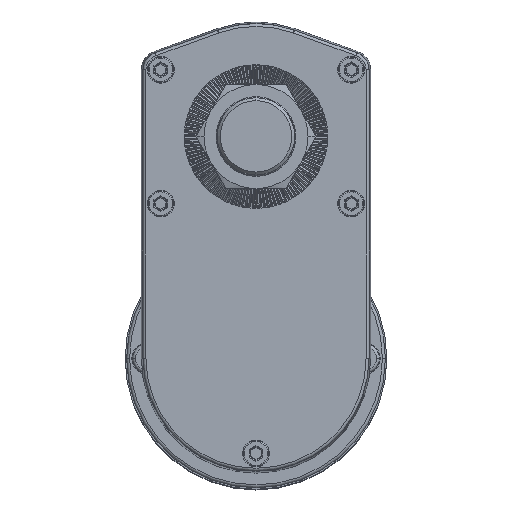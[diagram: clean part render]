
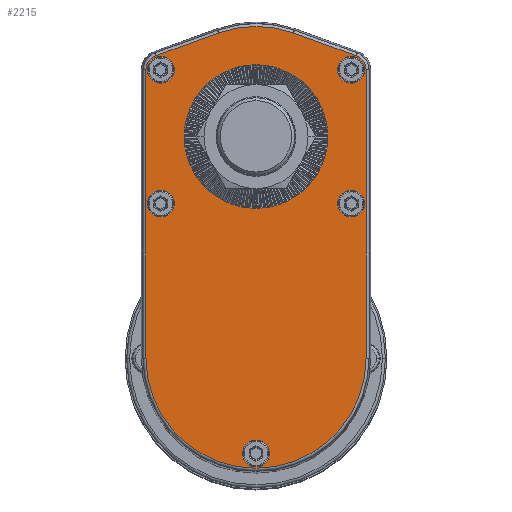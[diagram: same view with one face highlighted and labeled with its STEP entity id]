
A CAD part, top view. The second image highlights one B-rep face of the part: STEP entity #2215.
In plain terms, the highlighted planar face has unit normal (0, 0, 1).
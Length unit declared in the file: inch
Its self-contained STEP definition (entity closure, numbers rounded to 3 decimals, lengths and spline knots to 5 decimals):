
#2215=ADVANCED_FACE('NONE',(#4953,#4954,#4955,#4956,#4957,#4958,#4959),#4960,.F.);
#4953=FACE_OUTER_BOUND('',#9820,.T.);
#4954=FACE_BOUND('',#9821,.T.);
#4955=FACE_BOUND('',#9822,.T.);
#4956=FACE_BOUND('',#9823,.T.);
#4957=FACE_BOUND('',#9824,.T.);
#4958=FACE_BOUND('',#9825,.T.);
#4959=FACE_BOUND('',#9826,.T.);
#4960=PLANE('',#9827);
#9820=EDGE_LOOP('',(#18326,#18327,#18328,#18329,#18330,#18331,#18332,#18333));
#9821=EDGE_LOOP('',(#18334,#18335));
#9822=EDGE_LOOP('',(#18336,#18337));
#9823=EDGE_LOOP('',(#18338,#18339));
#9824=EDGE_LOOP('',(#18340,#18341));
#9825=EDGE_LOOP('',(#18342,#18343));
#9826=EDGE_LOOP('',(#18344,#18345));
#9827=AXIS2_PLACEMENT_3D('',#18346,#18347,#18348);
#18326=ORIENTED_EDGE('',*,*,#24241,.T.);
#18327=ORIENTED_EDGE('',*,*,#25404,.T.);
#18328=ORIENTED_EDGE('',*,*,#25405,.T.);
#18329=ORIENTED_EDGE('',*,*,#25406,.T.);
#18330=ORIENTED_EDGE('',*,*,#25407,.T.);
#18331=ORIENTED_EDGE('',*,*,#22927,.T.);
#18332=ORIENTED_EDGE('',*,*,#25408,.T.);
#18333=ORIENTED_EDGE('',*,*,#23500,.T.);
#18334=ORIENTED_EDGE('',*,*,#24743,.F.);
#18335=ORIENTED_EDGE('',*,*,#25409,.F.);
#18336=ORIENTED_EDGE('',*,*,#25177,.F.);
#18337=ORIENTED_EDGE('',*,*,#25410,.F.);
#18338=ORIENTED_EDGE('',*,*,#24555,.F.);
#18339=ORIENTED_EDGE('',*,*,#25411,.F.);
#18340=ORIENTED_EDGE('',*,*,#25412,.F.);
#18341=ORIENTED_EDGE('',*,*,#24443,.F.);
#18342=ORIENTED_EDGE('',*,*,#25413,.F.);
#18343=ORIENTED_EDGE('',*,*,#25414,.F.);
#18344=ORIENTED_EDGE('',*,*,#25415,.F.);
#18345=ORIENTED_EDGE('',*,*,#25416,.F.);
#18346=CARTESIAN_POINT('',(-0.25544,1.49611,28.17717));
#18347=DIRECTION('',(0.0,0.0,-1.0));
#18348=DIRECTION('',(0.0,-1.0,0.0));
#22927=EDGE_CURVE('NONE',#26923,#26927,#26929,.T.);
#23500=EDGE_CURVE('NONE',#27930,#27935,#27937,.T.);
#24241=EDGE_CURVE('NONE',#27935,#29130,#29132,.T.);
#24443=EDGE_CURVE('NONE',#29427,#29425,#29429,.T.);
#24555=EDGE_CURVE('NONE',#29588,#29583,#29590,.T.);
#24743=EDGE_CURVE('NONE',#29865,#29867,#29868,.T.);
#25177=EDGE_CURVE('NONE',#30468,#30466,#30470,.T.);
#25404=EDGE_CURVE('NONE',#29130,#30758,#30759,.T.);
#25405=EDGE_CURVE('NONE',#30758,#30760,#30761,.T.);
#25406=EDGE_CURVE('NONE',#30760,#30762,#30763,.T.);
#25407=EDGE_CURVE('NONE',#30762,#26923,#30764,.T.);
#25408=EDGE_CURVE('NONE',#26927,#27930,#30765,.T.);
#25409=EDGE_CURVE('NONE',#29867,#29865,#30766,.T.);
#25410=EDGE_CURVE('NONE',#30466,#30468,#30767,.T.);
#25411=EDGE_CURVE('NONE',#29583,#29588,#30768,.T.);
#25412=EDGE_CURVE('NONE',#29425,#29427,#30769,.T.);
#25413=EDGE_CURVE('NONE',#30770,#30771,#30772,.T.);
#25414=EDGE_CURVE('NONE',#30771,#30770,#30773,.T.);
#25415=EDGE_CURVE('NONE',#30774,#30775,#30776,.T.);
#25416=EDGE_CURVE('NONE',#30775,#30774,#30777,.T.);
#26923=VERTEX_POINT('NONE',#33014);
#26927=VERTEX_POINT('NONE',#33018);
#26929=CIRCLE('',#33020,1.45738);
#27930=VERTEX_POINT('NONE',#36040);
#27935=VERTEX_POINT('NONE',#36045);
#27937=CIRCLE('',#36047,0.19754);
#29130=VERTEX_POINT('NONE',#39439);
#29132=LINE('',#39441,#39442);
#29425=VERTEX_POINT('NONE',#40157);
#29427=VERTEX_POINT('',#40160);
#29429=CIRCLE('',#40163,0.17717);
#29583=VERTEX_POINT('',#40523);
#29588=VERTEX_POINT('NONE',#40529);
#29590=CIRCLE('',#40532,0.17717);
#29865=VERTEX_POINT('NONE',#41192);
#29867=VERTEX_POINT('',#41195);
#29868=CIRCLE('',#41196,0.94882);
#30466=VERTEX_POINT('',#43049);
#30468=VERTEX_POINT('NONE',#43052);
#30470=CIRCLE('',#43055,0.17717);
#30758=VERTEX_POINT('NONE',#43717);
#30759=CIRCLE('',#43718,1.45718);
#30760=VERTEX_POINT('NONE',#43719);
#30761=LINE('',#43720,#43721);
#30762=VERTEX_POINT('NONE',#43722);
#30763=CIRCLE('',#43723,0.19754);
#30764=LINE('',#43724,#43725);
#30765=LINE('',#43726,#43727);
#30766=CIRCLE('',#43728,0.94882);
#30767=CIRCLE('',#43729,0.17717);
#30768=CIRCLE('',#43730,0.17717);
#30769=CIRCLE('',#43731,0.17717);
#30770=VERTEX_POINT('NONE',#43732);
#30771=VERTEX_POINT('',#43733);
#30772=CIRCLE('',#43734,0.17717);
#30773=CIRCLE('',#43735,0.17717);
#30774=VERTEX_POINT('NONE',#43736);
#30775=VERTEX_POINT('',#43737);
#30776=CIRCLE('',#43738,0.17717);
#30777=CIRCLE('',#43739,0.17717);
#33014=CARTESIAN_POINT('',(0.24005,2.86668,28.17717));
#33018=CARTESIAN_POINT('',(-0.75093,2.86668,28.17717));
#33020=AXIS2_PLACEMENT_3D('',#46752,#46753,#46754);
#36040=CARTESIAN_POINT('',(-1.58224,2.56614,28.17717));
#36045=CARTESIAN_POINT('',(-1.71262,2.38037,28.17717));
#36047=AXIS2_PLACEMENT_3D('',#47224,#47225,#47226);
#39439=CARTESIAN_POINT('',(-1.71262,-1.43676,28.17717));
#39441=CARTESIAN_POINT('',(-1.71262,-1.43676,28.17717));
#39442=VECTOR('',#47916,39.37008);
#40157=CARTESIAN_POINT('',(-0.07827,-2.69837,28.17717));
#40160=CARTESIAN_POINT('',(-0.4326,-2.69837,28.17717));
#40163=AXIS2_PLACEMENT_3D('',#48125,#48126,#48127);
#40523=CARTESIAN_POINT('',(1.18157,0.60871,28.17717));
#40529=CARTESIAN_POINT('',(0.82724,0.60871,28.17717));
#40532=AXIS2_PLACEMENT_3D('',#48230,#48231,#48232);
#41192=CARTESIAN_POINT('',(-1.20426,1.49611,28.17717));
#41195=CARTESIAN_POINT('',(0.69338,1.49611,28.17717));
#41196=AXIS2_PLACEMENT_3D('',#48429,#48430,#48431);
#43049=CARTESIAN_POINT('',(1.18157,2.38037,28.17717));
#43052=CARTESIAN_POINT('',(0.82724,2.38037,28.17717));
#43055=AXIS2_PLACEMENT_3D('',#48908,#48909,#48910);
#43717=CARTESIAN_POINT('',(1.20174,-1.43676,28.17717));
#43718=AXIS2_PLACEMENT_3D('',#49130,#49131,#49132);
#43719=CARTESIAN_POINT('',(1.20174,2.38037,28.17717));
#43720=CARTESIAN_POINT('',(1.20174,2.38037,28.17717));
#43721=VECTOR('',#49133,39.37008);
#43722=CARTESIAN_POINT('',(1.07137,2.56614,28.17717));
#43723=AXIS2_PLACEMENT_3D('',#49134,#49135,#49136);
#43724=CARTESIAN_POINT('',(0.24005,2.86668,28.17717));
#43725=VECTOR('',#49137,39.37008);
#43726=CARTESIAN_POINT('',(-1.58224,2.56614,28.17717));
#43727=VECTOR('',#49138,39.37008);
#43728=AXIS2_PLACEMENT_3D('',#49139,#49140,#49141);
#43729=AXIS2_PLACEMENT_3D('',#49142,#49143,#49144);
#43730=AXIS2_PLACEMENT_3D('',#49145,#49146,#49147);
#43731=AXIS2_PLACEMENT_3D('',#49148,#49149,#49150);
#43732=CARTESIAN_POINT('',(-1.33812,0.60871,28.17717));
#43733=CARTESIAN_POINT('',(-1.69245,0.60871,28.17717));
#43734=AXIS2_PLACEMENT_3D('',#49151,#49152,#49153);
#43735=AXIS2_PLACEMENT_3D('',#49154,#49155,#49156);
#43736=CARTESIAN_POINT('',(-1.33812,2.38037,28.17717));
#43737=CARTESIAN_POINT('',(-1.69245,2.38037,28.17717));
#43738=AXIS2_PLACEMENT_3D('',#49157,#49158,#49159);
#43739=AXIS2_PLACEMENT_3D('',#49160,#49161,#49162);
#46752=CARTESIAN_POINT('',(-0.25544,1.49611,28.17717));
#46753=DIRECTION('',(0.0,0.0,1.0));
#46754=DIRECTION('',(-1.0,0.,0.0));
#47224=CARTESIAN_POINT('',(-1.51508,2.38037,28.17717));
#47225=DIRECTION('',(0.0,0.0,1.0));
#47226=DIRECTION('',(-1.0,0.0,0.0));
#47916=DIRECTION('',(0.,-1.0,-0.0));
#48125=CARTESIAN_POINT('',(-0.25544,-2.69837,28.17717));
#48126=DIRECTION('',(0.0,0.0,1.0));
#48127=DIRECTION('',(1.0,0.0,0.0));
#48230=CARTESIAN_POINT('',(1.0044,0.60871,28.17717));
#48231=DIRECTION('',(0.0,0.0,1.0));
#48232=DIRECTION('',(-1.0,0.0,0.0));
#48429=CARTESIAN_POINT('',(-0.25544,1.49611,28.17717));
#48430=DIRECTION('',(0.0,0.0,1.0));
#48431=DIRECTION('',(-1.0,0.0,0.0));
#48908=CARTESIAN_POINT('',(1.0044,2.38037,28.17717));
#48909=DIRECTION('',(0.0,0.0,1.0));
#48910=DIRECTION('',(-1.0,0.0,0.0));
#49130=CARTESIAN_POINT('',(-0.25544,-1.43676,28.17717));
#49131=DIRECTION('',(0.0,0.0,1.0));
#49132=DIRECTION('',(-1.0,0.0,0.0));
#49133=DIRECTION('',(0.,1.0,0.0));
#49134=CARTESIAN_POINT('',(1.00421,2.38037,28.17717));
#49135=DIRECTION('',(0.0,0.0,1.0));
#49136=DIRECTION('',(-1.0,0.,0.0));
#49137=DIRECTION('',(-0.94,0.34,0.0));
#49138=DIRECTION('',(-0.94,-0.34,-0.0));
#49139=CARTESIAN_POINT('',(-0.25544,1.49611,28.17717));
#49140=DIRECTION('',(0.0,0.0,1.0));
#49141=DIRECTION('',(-1.0,0.0,0.0));
#49142=CARTESIAN_POINT('',(1.0044,2.38037,28.17717));
#49143=DIRECTION('',(0.0,0.0,1.0));
#49144=DIRECTION('',(-1.0,0.0,0.0));
#49145=CARTESIAN_POINT('',(1.0044,0.60871,28.17717));
#49146=DIRECTION('',(0.0,0.0,1.0));
#49147=DIRECTION('',(-1.0,0.0,0.0));
#49148=CARTESIAN_POINT('',(-0.25544,-2.69837,28.17717));
#49149=DIRECTION('',(0.0,0.0,1.0));
#49150=DIRECTION('',(1.0,0.0,0.0));
#49151=CARTESIAN_POINT('',(-1.51528,0.60871,28.17717));
#49152=DIRECTION('',(0.0,0.0,1.0));
#49153=DIRECTION('',(1.0,0.0,0.0));
#49154=CARTESIAN_POINT('',(-1.51528,0.60871,28.17717));
#49155=DIRECTION('',(0.0,0.0,1.0));
#49156=DIRECTION('',(1.0,0.0,0.0));
#49157=CARTESIAN_POINT('',(-1.51528,2.38037,28.17717));
#49158=DIRECTION('',(0.0,0.0,1.0));
#49159=DIRECTION('',(1.0,0.0,0.0));
#49160=CARTESIAN_POINT('',(-1.51528,2.38037,28.17717));
#49161=DIRECTION('',(0.0,0.0,1.0));
#49162=DIRECTION('',(1.0,0.0,0.0));
